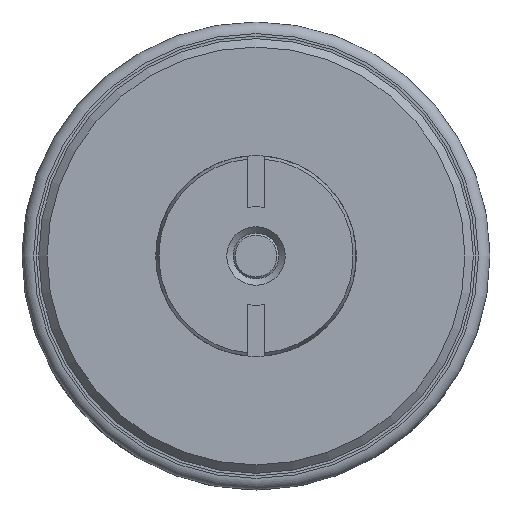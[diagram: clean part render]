
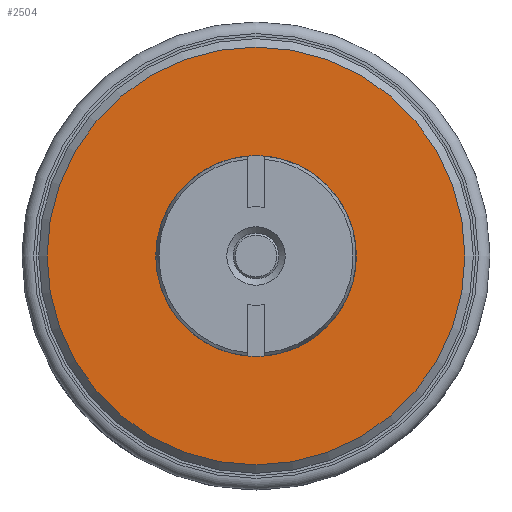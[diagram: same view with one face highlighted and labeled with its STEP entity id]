
A CAD part, left-side view. The second image highlights one B-rep face of the part: STEP entity #2504.
In plain terms, the highlighted planar face has unit normal (-1, 0, 0).
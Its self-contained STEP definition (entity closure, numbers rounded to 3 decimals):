
#111=PLANE('',#2687);
#191=CIRCLE('',#2686,25.);
#192=CIRCLE('',#2688,12.);
#494=ORIENTED_EDGE('',*,*,#773,.T.);
#495=ORIENTED_EDGE('',*,*,#774,.T.);
#773=EDGE_CURVE('',#941,#941,#191,.T.);
#774=EDGE_CURVE('',#942,#942,#192,.T.);
#941=VERTEX_POINT('',#3700);
#942=VERTEX_POINT('',#3703);
#1282=EDGE_LOOP('',(#494));
#1283=EDGE_LOOP('',(#495));
#1479=FACE_BOUND('',#1282,.T.);
#1480=FACE_BOUND('',#1283,.T.);
#2504=ADVANCED_FACE('',(#1479,#1480),#111,.T.);
#2686=AXIS2_PLACEMENT_3D('',#3699,#3109,#3110);
#2687=AXIS2_PLACEMENT_3D('',#3701,#3111,#3112);
#2688=AXIS2_PLACEMENT_3D('',#3702,#3113,#3114);
#3109=DIRECTION('',(-1.,0.,0.));
#3110=DIRECTION('',(0.,-1.,0.));
#3111=DIRECTION('',(-1.,0.,0.));
#3112=DIRECTION('',(0.,-1.,0.));
#3113=DIRECTION('',(1.,0.,0.));
#3114=DIRECTION('',(0.,1.,0.));
#3699=CARTESIAN_POINT('',(-23.501,0.,0.));
#3700=CARTESIAN_POINT('',(-23.501,-25.,0.));
#3701=CARTESIAN_POINT('',(-23.501,26.,0.));
#3702=CARTESIAN_POINT('',(-23.501,0.,0.));
#3703=CARTESIAN_POINT('',(-23.501,12.,0.));
